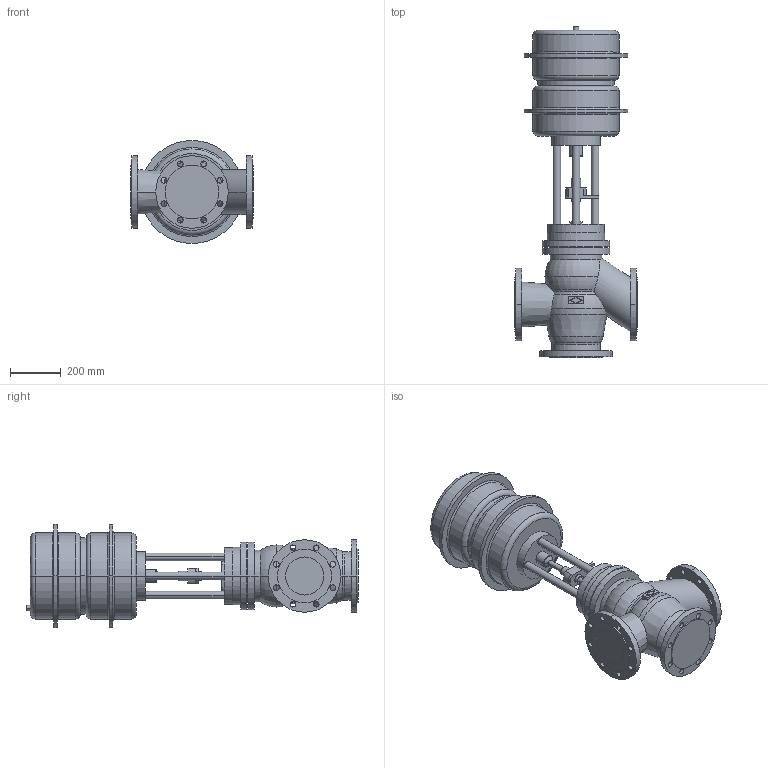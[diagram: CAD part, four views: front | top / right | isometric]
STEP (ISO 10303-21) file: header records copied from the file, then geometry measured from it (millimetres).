
FILE_DESCRIPTION(('OneSpaceDesigner STEP Export'),'2;1');
FILE_NAME('c000002370.stp','2007-01-26T12:33:33',(''),(''),'OneSpace Designer STEP processor for AP214 (Solid Model)','OneSpace Designer 14.00B 27-May-2006 (C) CoCreate Software GmbH','');
FILE_SCHEMA(('AUTOMOTIVE_DESIGN { 1 0 10303 214 1 1 1 1 }'));
Length unit declared in the file: millimetre
Products named in the file (2): 1; 2
Bounding box: 480 x 1304.5 x 405 mm (x, y, z)
Volume: 70807040.5 mm3; surface area: 1936227.6 mm2
Topology: 2 solids, 2 shells, 245 faces, 591 edges, 387 vertices
Faces by surface type: cylinder 128, plane 77, torus 34, cone 6
Entity records: 6552 total; most frequent: CARTESIAN_POINT 1321, ORIENTED_EDGE 1182, DIRECTION 934, EDGE_CURVE 591, VERTEX_POINT 387, AXIS2_PLACEMENT_3D 356, EDGE_LOOP 330, FACE_OUTER_BOUND 245
